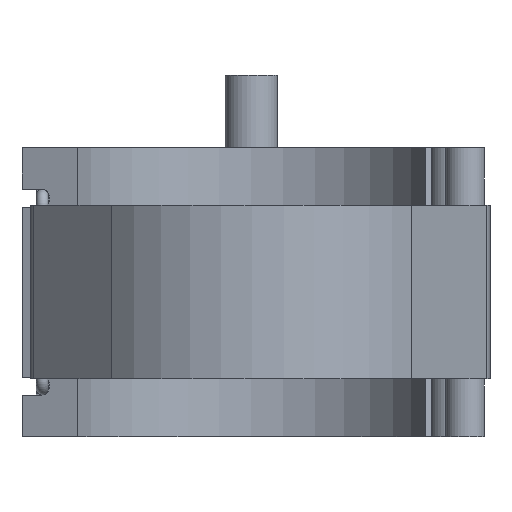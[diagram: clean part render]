
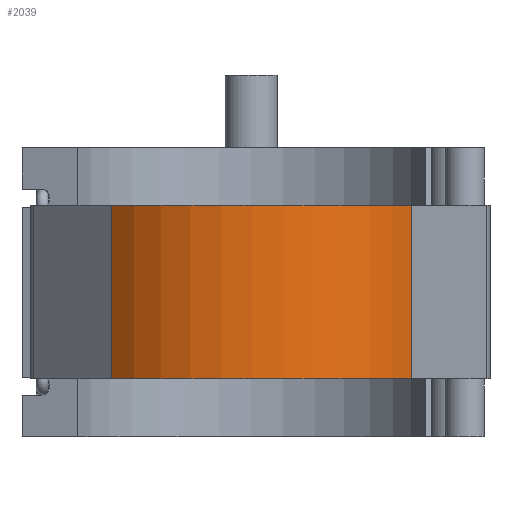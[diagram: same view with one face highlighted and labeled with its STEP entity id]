
A CAD part, front view. The second image highlights one B-rep face of the part: STEP entity #2039.
In plain terms, the highlighted cylindrical face has radius 115.875 mm (diameter 231.75 mm), a partial arc.
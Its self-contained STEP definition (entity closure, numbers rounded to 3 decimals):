
#64=CYLINDRICAL_SURFACE('',#2227,115.875);
#118=CIRCLE('',#2146,115.875);
#127=CIRCLE('',#2156,115.875);
#262=FACE_OUTER_BOUND('',#386,.T.);
#386=EDGE_LOOP('',(#1576,#1577,#1578,#1579));
#572=LINE('',#3314,#745);
#573=LINE('',#3316,#746);
#745=VECTOR('',#2638,10.);
#746=VECTOR('',#2641,10.);
#836=VERTEX_POINT('',#3034);
#837=VERTEX_POINT('',#3036);
#852=VERTEX_POINT('',#3068);
#853=VERTEX_POINT('',#3070);
#1034=EDGE_CURVE('',#836,#837,#118,.T.);
#1051=EDGE_CURVE('',#852,#853,#127,.T.);
#1165=EDGE_CURVE('',#836,#853,#572,.T.);
#1166=EDGE_CURVE('',#837,#852,#573,.T.);
#1576=ORIENTED_EDGE('',*,*,#1165,.T.);
#1577=ORIENTED_EDGE('',*,*,#1051,.F.);
#1578=ORIENTED_EDGE('',*,*,#1166,.F.);
#1579=ORIENTED_EDGE('',*,*,#1034,.F.);
#2039=ADVANCED_FACE('',(#262),#64,.T.);
#2146=AXIS2_PLACEMENT_3D('',#3037,#2393,#2394);
#2156=AXIS2_PLACEMENT_3D('',#3071,#2421,#2422);
#2227=AXIS2_PLACEMENT_3D('',#3315,#2639,#2640);
#2393=DIRECTION('center_axis',(0.,0.,-1.));
#2394=DIRECTION('ref_axis',(0.992,0.126,0.));
#2421=DIRECTION('center_axis',(0.,0.,1.));
#2422=DIRECTION('ref_axis',(0.992,0.126,0.));
#2638=DIRECTION('',(0.,0.,1.));
#2639=DIRECTION('center_axis',(0.,0.,1.));
#2640=DIRECTION('ref_axis',(0.992,0.126,0.));
#2641=DIRECTION('',(0.,0.,1.));
#3034=CARTESIAN_POINT('',(97.601,-62.458,-52.8));
#3036=CARTESIAN_POINT('',(-85.242,-78.491,-52.8));
#3037=CARTESIAN_POINT('Origin',(0.,0.,-52.8));
#3068=CARTESIAN_POINT('',(-85.242,-78.491,52.8));
#3070=CARTESIAN_POINT('',(97.601,-62.458,52.8));
#3071=CARTESIAN_POINT('Origin',(0.,0.,52.8));
#3314=CARTESIAN_POINT('',(97.601,-62.458,0.));
#3315=CARTESIAN_POINT('Origin',(0.,0.,0.));
#3316=CARTESIAN_POINT('',(-85.242,-78.491,0.));
